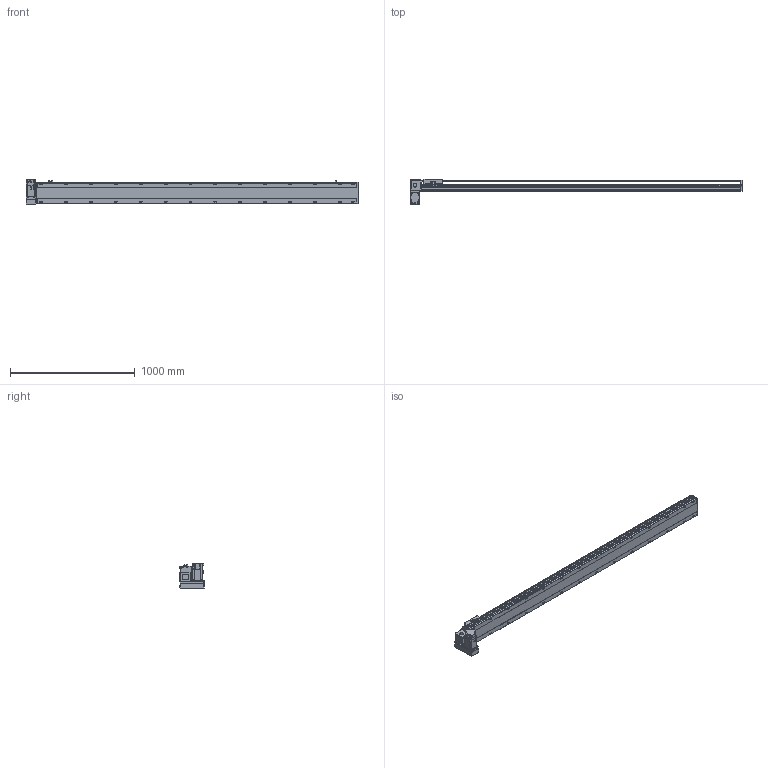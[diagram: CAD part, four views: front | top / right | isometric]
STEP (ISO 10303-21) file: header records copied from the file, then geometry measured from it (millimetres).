
FILE_DESCRIPTION( ( 'STEP AP214' ), '1' );
FILE_NAME( 'x:/temp/worker_4/temp/exporttempdir_2248_358_MFItZ/format_0/PBS170-P40-S2300-LD-T75-C1-N(0).stp', '2022-06-07T07:55:57', ( 'License CC BY-ND 4.0' ), ( 'CADENAS' ), ' ', 'PARTsolutions', ' ' );
FILE_SCHEMA( ( 'AUTOMOTIVE_DESIGN { 1 0 10303 214 1 1 1 1 }' ) );
Length unit declared in the file: millimetre
Products named in the file (7): PBS170-P40-S2300-LD-T75-C1-N(0); _PBS170-S2300()_body; _PBS170T-LD_motors; _T75-p1; _PBS170_sliser; _PBS170_plant; _PBS170_sensor
Assembly tree (8 placements, depth 2):
  PBS170-P40-S2300-LD-T75-C1-N(0)
    _PBS170-S2300()_body
    _PBS170T-LD_motors
    _T75-p1
    _PBS170_sliser
    _PBS170_plant
    _PBS170_sensor  x3
Bounding box: 2663 x 201 x 197.3 mm (x, y, z)
Volume: 20252233.2 mm3; surface area: 2558160.1 mm2
Topology: 8 solids, 8 shells, 1178 faces, 3115 edges, 2030 vertices
Faces by surface type: plane 723, cylinder 387, cone 58, sphere 8, torus 2
Full cylindrical faces by diameter (mm): 3.242 x4, 4 x2, 4.4 x4, 4.5 x6, 4.917 x4, 6 x9, 6.647 x36, 7 x2, 7.5 x4, 8 x8, 8.5 x28, 10 x4, 10.5 x28, 11 x2, 30 x2, 40 x1, 70 x1
Entity records: 43592 total; most frequent: CARTESIAN_POINT 7229, DIRECTION 5720, ORIENTED_EDGE 5388, EDGE_CURVE 2694, AXIS2_PLACEMENT_3D 2017, VERTEX_POINT 1874, LINE 1686, VECTOR 1686
